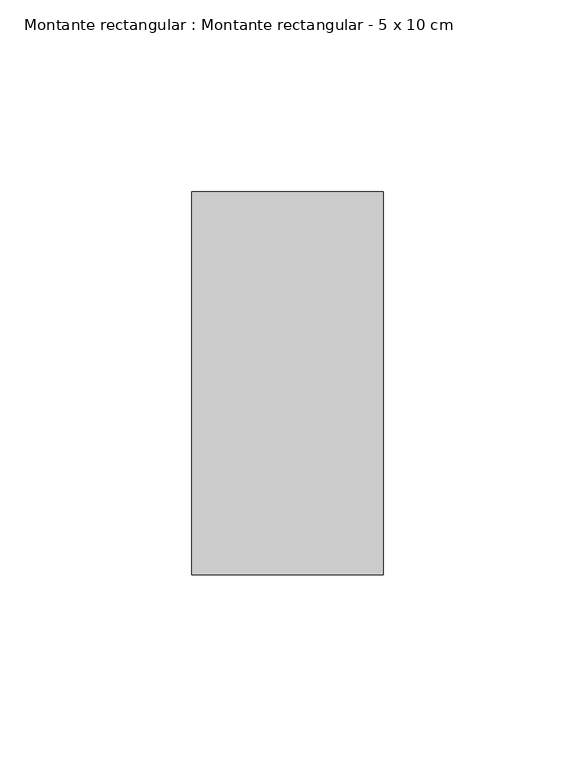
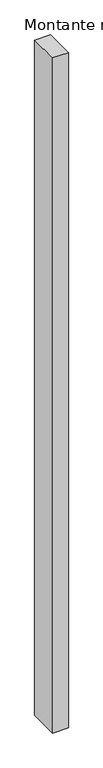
"""IFC4 building model written with IfcOpenShell, lengths in millimetres: member geometry, Montante rectangular : Montante rectangular - 5 x 10 cm."""

from ifc_helpers import new_model, si_unit, frame, origin, place, context, project, spatial, polyline, outline, extrude, source, transform, mapped, element, save


def montante_rectangular_montante_rectangular_5_x_10_cm_64546917(model_context):
    return source(origin(), model_context, "Body", "SweptSolid", [
        extrude(outline(polyline([(0.0, 50.0), (0.0, -50.0), (-50.0, -50.0), (-50.0, 50.0), (0.0, 50.0)])), frame((0.0, 0.0, -2285.0), z_axis=(0.0, 0.0, 1.0), x_axis=(1.0, 0.0, 0.0)), (0.0, 0.0, 1.0), 2285.0),
    ])


if __name__ == "__main__":
    model = new_model("IFC4")
    model_context = context("Model", 3, world=origin())
    ifc_project = project(units=[si_unit("LENGTHUNIT", "METRE", prefix="MILLI")], contexts=[model_context])
    site = spatial("IfcSite", under=ifc_project)
    building = spatial("IfcBuilding", under=site)
    placement = place(None, origin())
    montante_rectangular_montante_rectangular_5_x_10_cm_shape = montante_rectangular_montante_rectangular_5_x_10_cm_64546917(model_context)
    element("IfcMember", 1, ObjectType="Montante rectangular : Montante rectangular - 5 x 10 cm", at=placement, inside=building, context=model_context, shape_type="MappedRepresentation", body=[
        mapped(montante_rectangular_montante_rectangular_5_x_10_cm_shape, transform((0.0, 0.0, 0.0), x_axis=(1.0, 0.0, 0.0), y_axis=(0.0, 1.0, 0.0), z_axis=(0.0, 0.0, 1.0))),
    ])
    save(model, "model.ifc")
